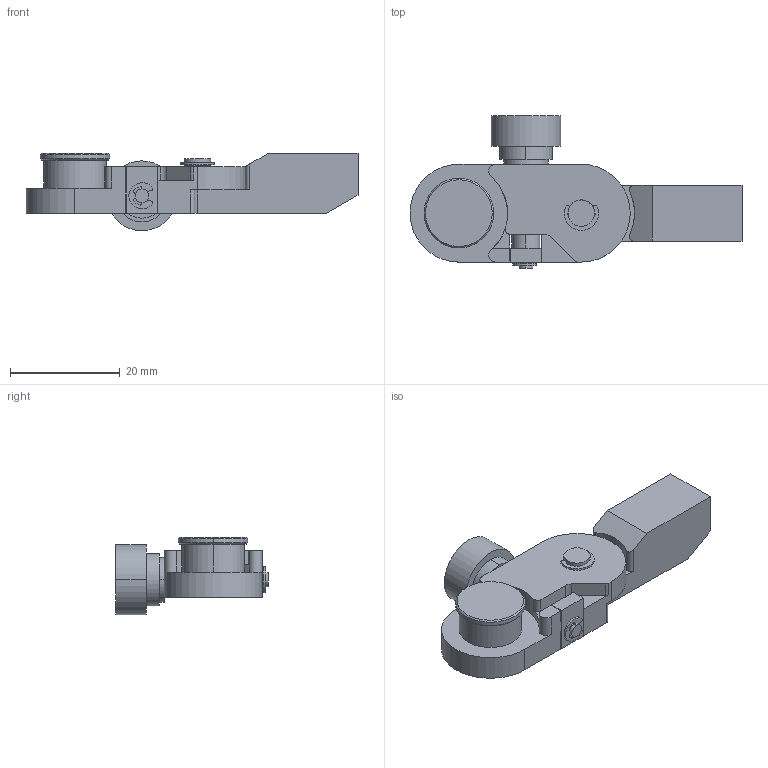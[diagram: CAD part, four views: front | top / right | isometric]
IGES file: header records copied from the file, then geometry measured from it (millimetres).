
Global section: file name: No Iges File Name specified; native system: Autodesk Inventor 2010; preprocessor: AutoDesk Inventor Iges Exporter R2010; author: mlampen; date: 20170420.115752; units: inch
Bounding box: 60.38 x 27.74 x 14.08 mm (x, y, z)
Volume: 7459.9 mm3; surface area: 5481.3 mm2
Topology: 4 solids, 7 shells, 232 faces, 568 edges, 359 vertices
Faces by surface type: plane 72, cylinder 68, revolution 46, cone 36, bspline 8, torus 2
